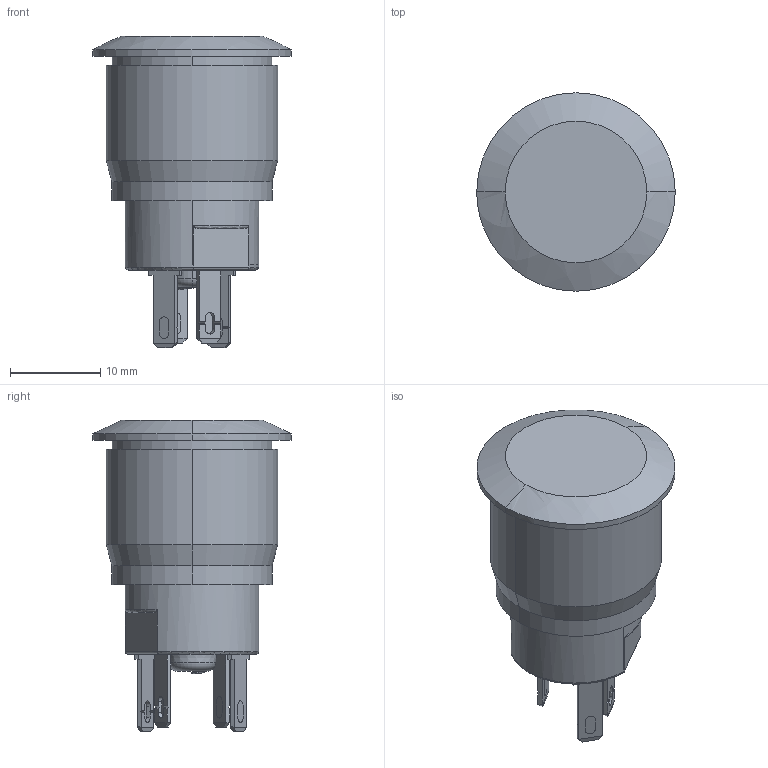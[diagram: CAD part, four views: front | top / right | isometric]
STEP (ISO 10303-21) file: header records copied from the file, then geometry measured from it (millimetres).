
FILE_DESCRIPTION((''),'2;1');
FILE_NAME('AV900220000840K','2014-12-22T',('brevel'),(''),'PRO/ENGINEER BY PARAMETRIC TECHNOLOGY CORPORATION, 2013410','PRO/ENGINEER BY PARAMETRIC TECHNOLOGY CORPORATION, 2013410','');
FILE_SCHEMA(('CONFIG_CONTROL_DESIGN'));
Length unit declared in the file: millimetre
Products named in the file (1): AV900220000840K
Bounding box: 22 x 22 x 34.5 mm (x, y, z)
Surface area: 3208.5 mm2 (no closed solid volume)
Topology: 0 solids, 10 shells, 125 faces, 386 edges, 267 vertices
Faces by surface type: plane 91, cylinder 20, torus 6, cone 4, sphere 2, bspline 2
Entity records: 4702 total; most frequent: CARTESIAN_POINT 1263, ORIENTED_EDGE 684, DIRECTION 678, EDGE_CURVE 385, VECTOR 310, LINE 310, VERTEX_POINT 267, AXIS2_PLACEMENT_3D 184
